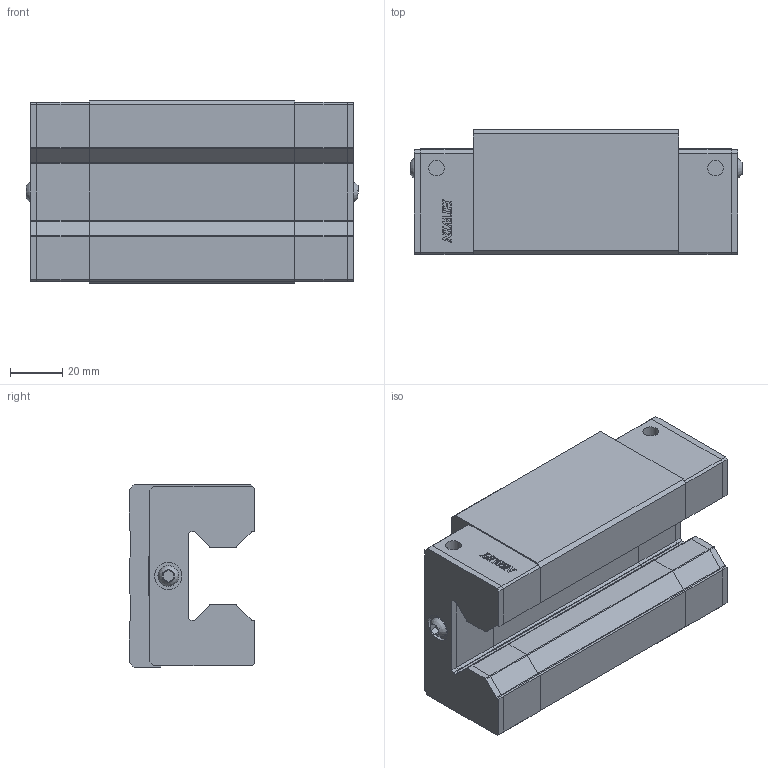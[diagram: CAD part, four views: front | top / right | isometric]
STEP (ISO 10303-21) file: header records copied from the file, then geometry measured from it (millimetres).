
FILE_DESCRIPTION(/* description */ (''),/* implementation_level */ '2;1');
FILE_NAME(/* name */ 'URH35CAZAH_GW202603049577.stp',/* time_stamp */ '2026-03-30T22:07:57+08:00',/* author */ ('user'),/* organization */ (''),/* preprocessor_version */ 'ST-DEVELOPER v20.1',/* originating_system */ 'Autodesk Inventor 2026',/* authorisation */ '');
FILE_SCHEMA (('AUTOMOTIVE_DESIGN { 1 0 10303 214 3 1 1 }'));
Products named in the file (3): URH35CAZAH_GW202603049577; URH35C_左封; 31010069
Assembly tree (3 placements, depth 2):
  URH35CAZAH_GW202603049577
    URH35C_左封
    31010069  x2
Bounding box: 127.4 x 48 x 70 mm (x, y, z)
Volume: 300985.6 mm3; surface area: 60340.7 mm2
Topology: 7 solids, 7 shells, 522 faces, 1444 edges, 960 vertices
Faces by surface type: plane 380, cylinder 134, cone 6, bspline 2
Full cylindrical faces by diameter (mm): 1.5 x2, 6 x6, 6.5 x2, 6.647 x6, 8 x2, 10.3 x2, 10.5 x2
Entity records: 16364 total; most frequent: CARTESIAN_POINT 2896, ORIENTED_EDGE 2824, DIRECTION 2706, EDGE_CURVE 1412, LINE 1146, VECTOR 1146, VERTEX_POINT 943, AXIS2_PLACEMENT_3D 780
